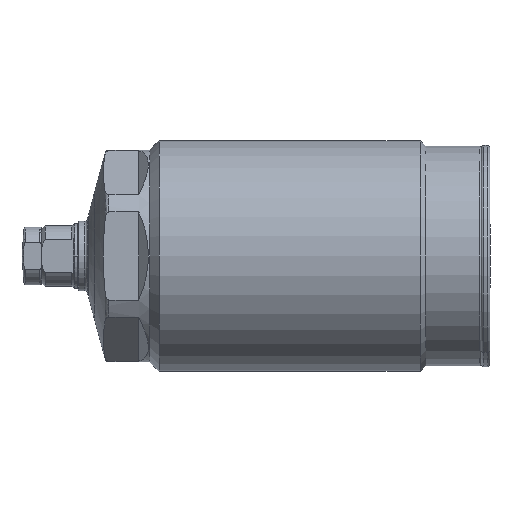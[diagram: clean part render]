
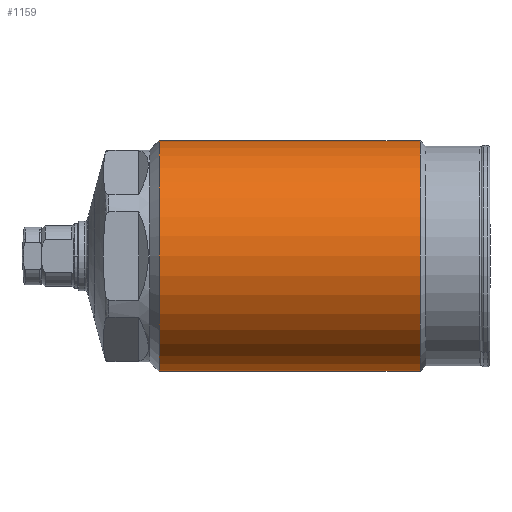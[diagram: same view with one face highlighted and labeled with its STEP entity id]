
A CAD part, left-side view. The second image highlights one B-rep face of the part: STEP entity #1159.
In plain terms, the highlighted cylindrical face has radius 18 mm (diameter 36 mm), a partial arc.
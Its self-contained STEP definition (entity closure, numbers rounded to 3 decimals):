
#852=CYLINDRICAL_SURFACE('',#3248,18.);
#917=LINE('',#4732,#1009);
#918=LINE('',#4733,#1010);
#1009=VECTOR('',#3846,1.);
#1010=VECTOR('',#3847,1.);
#1159=ADVANCED_FACE('',(#1346),#852,.T.);
#1346=FACE_OUTER_BOUND('',#1504,.T.);
#1504=EDGE_LOOP('',(#2079,#2080,#2081,#2082));
#2079=ORIENTED_EDGE('',*,*,#2633,.F.);
#2080=ORIENTED_EDGE('',*,*,#2719,.T.);
#2081=ORIENTED_EDGE('',*,*,#2634,.T.);
#2082=ORIENTED_EDGE('',*,*,#2720,.F.);
#2352=VERTEX_POINT('',#4724);
#2353=VERTEX_POINT('',#4726);
#2354=VERTEX_POINT('',#4730);
#2355=VERTEX_POINT('',#4731);
#2633=EDGE_CURVE('',#2355,#2353,#917,.T.);
#2634=EDGE_CURVE('',#2354,#2352,#918,.T.);
#2719=EDGE_CURVE('',#2355,#2354,#2926,.T.);
#2720=EDGE_CURVE('',#2353,#2352,#2927,.T.);
#2926=CIRCLE('',#3245,18.);
#2927=CIRCLE('',#3247,18.);
#3245=AXIS2_PLACEMENT_3D('',#5128,#3992,#3993);
#3247=AXIS2_PLACEMENT_3D('',#5130,#3996,#3997);
#3248=AXIS2_PLACEMENT_3D('',#5131,#3998,#3999);
#3846=DIRECTION('',(0.,1.,0.));
#3847=DIRECTION('',(0.,1.,0.));
#3992=DIRECTION('',(0.,1.,0.));
#3993=DIRECTION('',(0.,0.,1.));
#3996=DIRECTION('',(0.,1.,0.));
#3997=DIRECTION('',(0.,0.,1.));
#3998=DIRECTION('',(0.,1.,0.));
#3999=DIRECTION('',(0.,0.,-1.));
#4724=CARTESIAN_POINT('',(0.,51.6,18.));
#4726=CARTESIAN_POINT('',(0.,51.6,-18.));
#4730=CARTESIAN_POINT('',(0.,10.9,18.));
#4731=CARTESIAN_POINT('',(0.,10.9,-18.));
#4732=CARTESIAN_POINT('',(0.,64.3,-18.));
#4733=CARTESIAN_POINT('',(0.,64.3,18.));
#5128=CARTESIAN_POINT('',(0.,10.9,0.));
#5130=CARTESIAN_POINT('',(0.,51.6,0.));
#5131=CARTESIAN_POINT('',(0.,64.3,0.));
